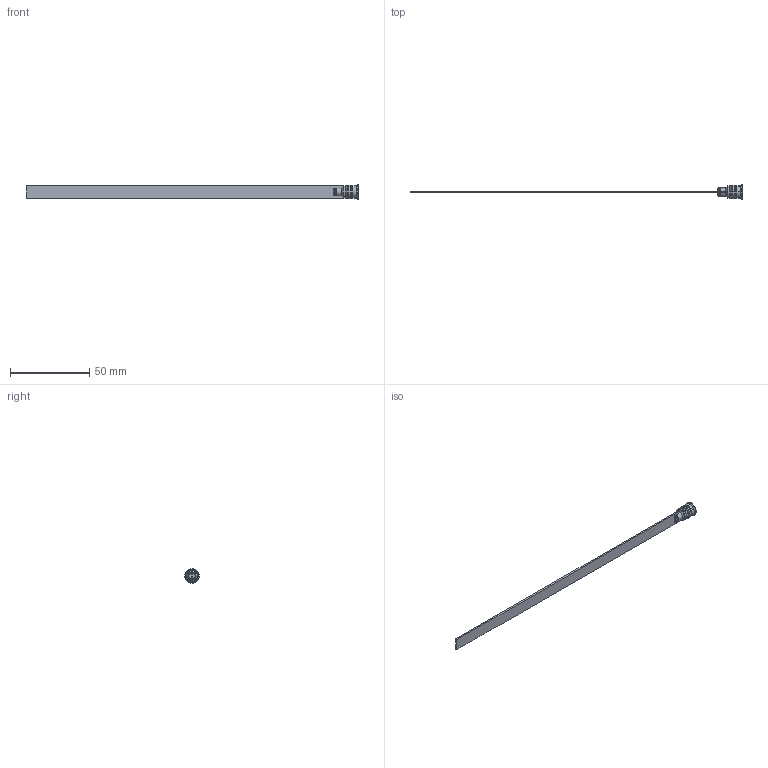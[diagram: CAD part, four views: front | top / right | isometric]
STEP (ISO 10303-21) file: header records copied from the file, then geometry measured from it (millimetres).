
FILE_DESCRIPTION (( 'STEP AP203' ), '1' );
FILE_NAME ('RL-8Fx200.STEP', '2010-05-04T14:02:24', ( ' ' ), ( ' ' ), 'SwSTEP 2.0', 'SolidWorks 2005204', '' );
FILE_SCHEMA (( 'CONFIG_CONTROL_DESIGN' ));
Length unit declared in the file: millimetre
Products named in the file (1): RL-8Fx200
Bounding box: 209.29 x 9 x 9 mm (x, y, z)
Volume: 2048 mm3; surface area: 4064.7 mm2
Topology: 1 solids, 1 shells, 73 faces, 176 edges, 108 vertices
Faces by surface type: plane 29, cylinder 18, cone 14, torus 12
Entity records: 2231 total; most frequent: CARTESIAN_POINT 442, DIRECTION 368, ORIENTED_EDGE 352, EDGE_CURVE 176, AXIS2_PLACEMENT_3D 138, VERTEX_POINT 108, LINE 92, VECTOR 92
